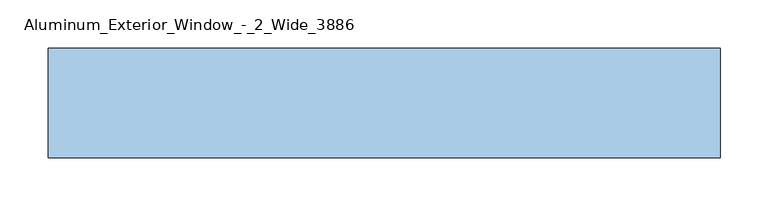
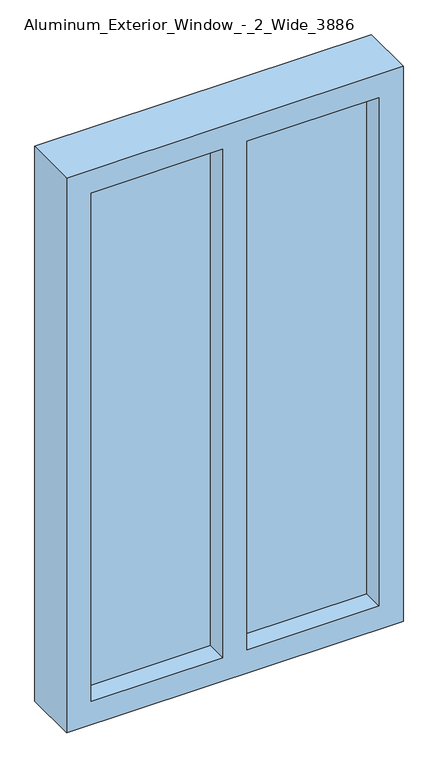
"""IFC4 building model written with IfcOpenShell, lengths in millimetres: window geometry."""

from ifc_helpers import new_model, si_unit, frame, origin, place, context, project, spatial, polyline, outline, extrude, source, transform, mapped, element, save


def aluminum_exterior_window_2_wide_3886_f8047025(model_context):
    return source(origin(), model_context, "Body", "SweptSolid", [
        extrude(outline(polyline([(-996.2, 106.7075246), (-722.4, 106.7075246), (-722.4, 81.3075246), (-996.2, 81.3075246), (-996.2, 106.7075246)])), frame((0.0, 0.0, 1066.8), z_axis=(0.0, 0.0, 1.0), x_axis=(1.0, 0.0, 0.0)), (0.0, 0.0, 1.0), 1117.6),
        extrude(outline(polyline([(-1320.8, 106.7075246), (-1047.0, 106.7075246), (-1047.0, 81.3075246), (-1320.8, 81.3075246), (-1320.8, 106.7075246)])), frame((0.0, 0.0, 1066.8), z_axis=(0.0, 0.0, 1.0), x_axis=(1.0, 0.0, 0.0)), (0.0, 0.0, 1.0), 1117.6),
        extrude(outline(polyline([(2235.2, -1371.6), (1016.0, -1371.6), (1016.0, -671.6), (2235.2, -671.6), (2235.2, -1371.6)]), holes=[polyline([(2184.4, -996.2), (2184.4, -722.4), (1066.8, -722.4), (1066.8, -996.2), (2184.4, -996.2)]), polyline([(2184.4, -1320.8), (2184.4, -1047.0), (1066.8, -1047.0), (1066.8, -1320.8), (2184.4, -1320.8)])]), frame((0.0, 36.8575246, 0.0), z_axis=(0.0, 1.0, 0.0), x_axis=(0.0, 0.0, 1.0)), (0.0, 0.0, 1.0), 114.3),
    ])


if __name__ == "__main__":
    model = new_model("IFC4")
    model_context = context("Model", 3, world=origin())
    ifc_project = project(units=[si_unit("LENGTHUNIT", "METRE", prefix="MILLI")], contexts=[model_context])
    site = spatial("IfcSite", under=ifc_project)
    building = spatial("IfcBuilding", under=site)
    placement = place(None, origin())
    aluminum_exterior_window_2_wide_3886_shape = aluminum_exterior_window_2_wide_3886_f8047025(model_context)
    element("IfcWindow", 1, ObjectType="Aluminum_Exterior_Window_-_2_Wide_3886 : 72\"W. x 48\"H. 3", at=placement, inside=building, context=model_context, shape_type="MappedRepresentation", body=[
        mapped(aluminum_exterior_window_2_wide_3886_shape, transform((0.0, 0.0, 0.0), x_axis=(1.0, 0.0, 0.0), y_axis=(0.0, 1.0, 0.0), z_axis=(0.0, 0.0, 1.0))),
    ])
    save(model, "model.ifc")
